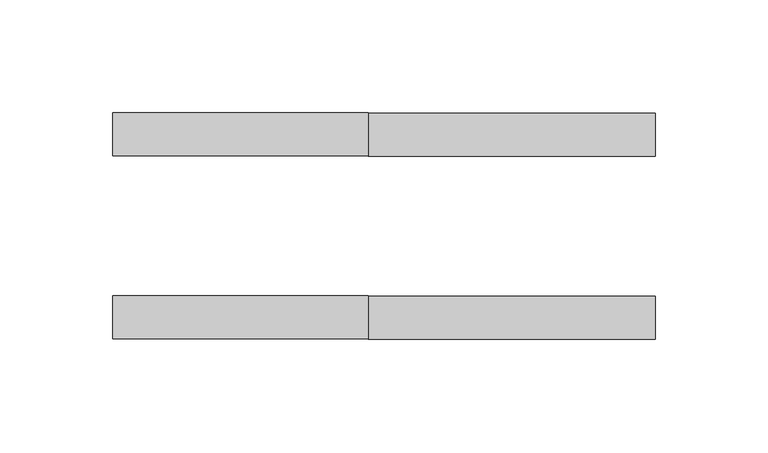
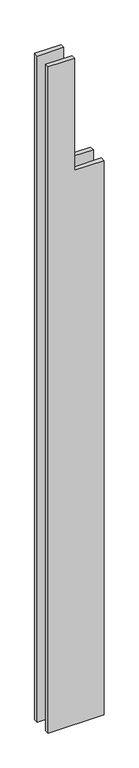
"""IFC4 building model written with IfcOpenShell, lengths in millimetres: plate geometry, Panel-Filler-Teknion-Altos : FZFF."""

from ifc_helpers import new_model, si_unit, frame, origin, place, context, project, spatial, polyline, outline, extrude, source, transform, mapped, element, save


def plate_8aa06e61(model_context):
    return source(origin(), model_context, "Body", "SweptSolid", [
        extrude(outline(polyline([(15.875, 120.0050781), (2524.125, 120.0050781), (2524.125, -6.9949219), (3032.125, -6.9949219), (3032.125, -120.0050781), (15.875, -120.0050781), (15.875, 120.0050781)])), frame((0.0, 30.9573955, 0.0), z_axis=(0.0, 1.0, 0.0), x_axis=(0.0, 0.0, 1.0)), (0.0, 0.0, 1.0), 19.05),
        extrude(outline(polyline([(15.875, 120.0050781), (2524.125, 120.0050781), (2524.125, -6.9949219), (3032.125, -6.9949219), (3032.125, -120.0050781), (15.875, -120.0050781), (15.875, 120.0050781)])), frame((0.0, -50.0051045, 0.0), z_axis=(0.0, 1.0, 0.0), x_axis=(0.0, 0.0, 1.0)), (0.0, 0.0, 1.0), 19.05),
    ])


if __name__ == "__main__":
    model = new_model("IFC4")
    model_context = context("Model", 3, world=origin())
    ifc_project = project(units=[si_unit("LENGTHUNIT", "METRE", prefix="MILLI")], contexts=[model_context])
    site = spatial("IfcSite", under=ifc_project)
    building = spatial("IfcBuilding", under=site)
    placement = place(None, origin())
    plate_shape = plate_8aa06e61(model_context)
    element("IfcPlate", 1, ObjectType="Panel-Filler-Teknion-Altos : FZFF", at=placement, inside=building, context=model_context, shape_type="MappedRepresentation", body=[
        mapped(plate_shape, transform((0.0, 0.0, 0.0), x_axis=(1.0, 0.0, 0.0), y_axis=(0.0, 1.0, 0.0), z_axis=(0.0, 0.0, 1.0))),
    ])
    save(model, "model.ifc")
